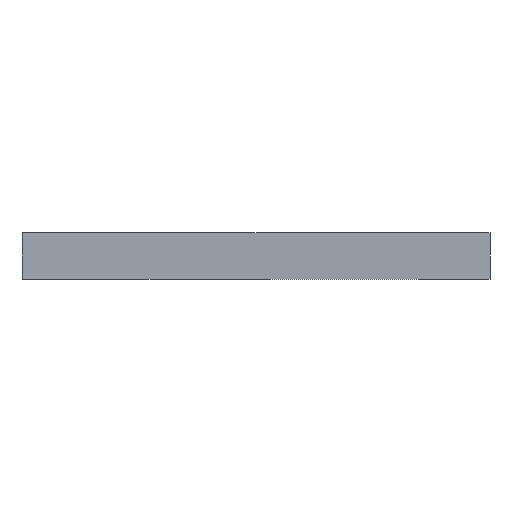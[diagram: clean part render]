
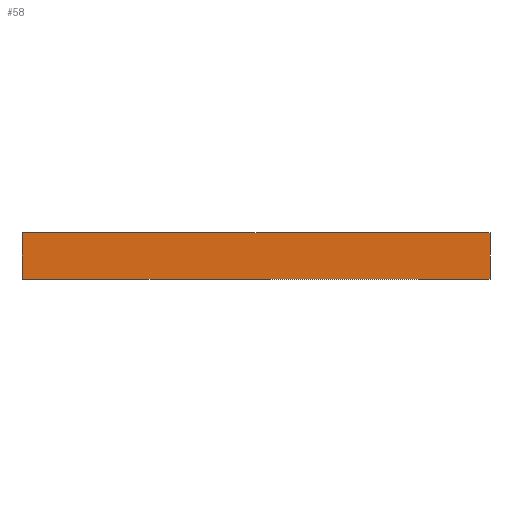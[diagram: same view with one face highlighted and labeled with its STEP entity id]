
A CAD part, left-side view. The second image highlights one B-rep face of the part: STEP entity #58.
In plain terms, the highlighted planar face has unit normal (-1, 0, 0).
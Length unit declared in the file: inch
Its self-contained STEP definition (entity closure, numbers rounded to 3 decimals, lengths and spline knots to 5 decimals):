
#37 = DIRECTION ( 'NONE',  ( 0., 0., -1. ) ) ;
#58 = ADVANCED_FACE ( 'NONE', ( #1329 ), #94, .F. ) ;
#66 = DIRECTION ( 'NONE',  ( 0., -1., 0. ) ) ;
#94 = PLANE ( 'NONE',  #414 ) ;
#168 = LINE ( 'NONE', #937, #951 ) ;
#209 = DIRECTION ( 'NONE',  ( 0., -1., 0. ) ) ;
#303 = ORIENTED_EDGE ( 'NONE', *, *, #1430, .T. ) ;
#317 = VERTEX_POINT ( 'NONE', #466 ) ;
#414 = AXIS2_PLACEMENT_3D ( 'NONE', #1087, #1595, #1614 ) ;
#423 = LINE ( 'NONE', #520, #572 ) ;
#466 = CARTESIAN_POINT ( 'NONE',  ( -2.03553, 1.0225, 0.5 ) ) ;
#467 = LINE ( 'NONE', #1341, #956 ) ;
#520 = CARTESIAN_POINT ( 'NONE',  ( -2.03553, 1.0225, 0.5 ) ) ;
#572 = VECTOR ( 'NONE', #37, 39.37008 ) ;
#578 = ORIENTED_EDGE ( 'NONE', *, *, #993, .F. ) ;
#588 = DIRECTION ( 'NONE',  ( 0., 0., -1. ) ) ;
#635 = VERTEX_POINT ( 'NONE', #1577 ) ;
#670 = VERTEX_POINT ( 'NONE', #911 ) ;
#800 = LINE ( 'NONE', #818, #837 ) ;
#818 = CARTESIAN_POINT ( 'NONE',  ( -2.03553, 1.0225, 0. ) ) ;
#836 = EDGE_CURVE ( 'NONE', #317, #635, #168, .T. ) ;
#837 = VECTOR ( 'NONE', #209, 39.37008 ) ;
#882 = ORIENTED_EDGE ( 'NONE', *, *, #1479, .T. ) ;
#911 = CARTESIAN_POINT ( 'NONE',  ( -2.03553, -3.9775, 0. ) ) ;
#937 = CARTESIAN_POINT ( 'NONE',  ( -2.03553, 1.0225, 0.5 ) ) ;
#948 = EDGE_LOOP ( 'NONE', ( #882, #578, #1066, #303 ) ) ;
#951 = VECTOR ( 'NONE', #66, 39.37008 ) ;
#956 = VECTOR ( 'NONE', #588, 39.37008 ) ;
#993 = EDGE_CURVE ( 'NONE', #635, #670, #467, .T. ) ;
#1066 = ORIENTED_EDGE ( 'NONE', *, *, #836, .F. ) ;
#1087 = CARTESIAN_POINT ( 'NONE',  ( -2.03553, 1.0225, 0.5 ) ) ;
#1210 = VERTEX_POINT ( 'NONE', #1616 ) ;
#1329 = FACE_OUTER_BOUND ( 'NONE', #948, .T. ) ;
#1341 = CARTESIAN_POINT ( 'NONE',  ( -2.03553, -3.9775, 0.5 ) ) ;
#1430 = EDGE_CURVE ( 'NONE', #317, #1210, #423, .T. ) ;
#1479 = EDGE_CURVE ( 'NONE', #1210, #670, #800, .T. ) ;
#1577 = CARTESIAN_POINT ( 'NONE',  ( -2.03553, -3.9775, 0.5 ) ) ;
#1595 = DIRECTION ( 'NONE',  ( 1., 0., 0. ) ) ;
#1614 = DIRECTION ( 'NONE',  ( 0., 0., -1. ) ) ;
#1616 = CARTESIAN_POINT ( 'NONE',  ( -2.03553, 1.0225, 0. ) ) ;
